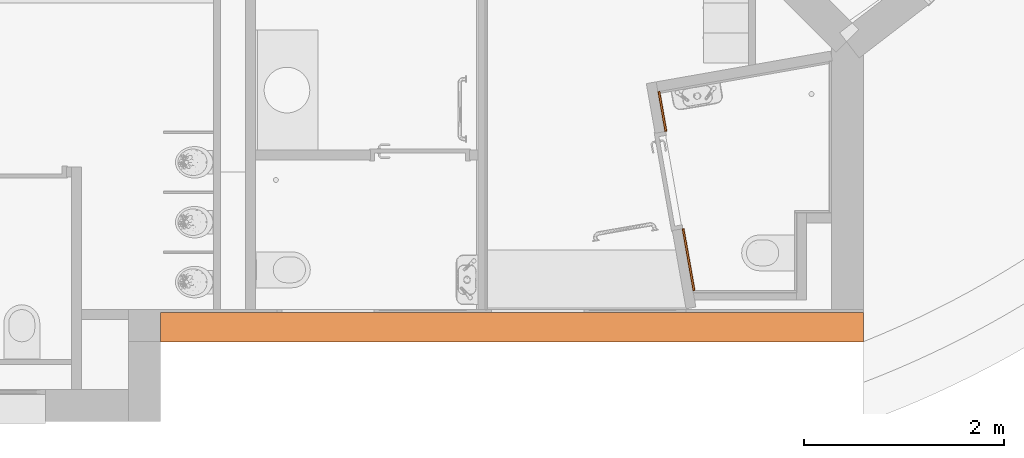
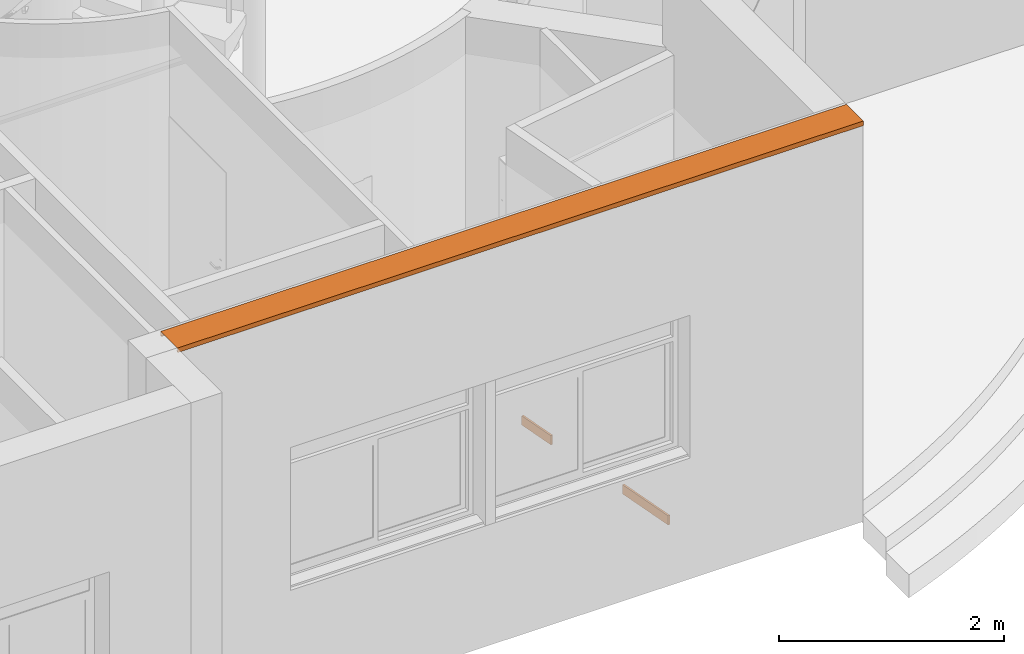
# One storey, part 129 of 137: 2 proxies.
"""IFC2X3 building model written with IfcOpenShell, lengths in centimetres."""

from ifc_helpers import new_model, entity, si_unit, converted_unit, derived_unit, direction, frame, frame_2d, origin, place, context, subcontext, project, spatial, polyline, rectangle, outline, extrude, element, save


model = new_model("IFC2X3")

# Units and contexts
model_context = context("Model", 3, precision=0.001, world=origin(), true_north=direction((6.12303176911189e-17, 1.0)))
body_context = subcontext(model_context, "Body", "Model", "MODEL_VIEW")
ifc_project = project(units=[si_unit("LENGTHUNIT", "METRE", prefix="CENTI"), si_unit("AREAUNIT", "SQUARE_METRE"), si_unit("VOLUMEUNIT", "CUBIC_METRE"), converted_unit("PLANEANGLEUNIT", "DEGREE", entity("IfcRatioMeasure", 0.0174532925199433), si_unit("PLANEANGLEUNIT", "RADIAN"), dimensions=[0, 0, 0, 0, 0, 0, 0]), si_unit("MASSUNIT", "GRAM", prefix="KILO"), si_unit("TIMEUNIT", "SECOND"), si_unit("FREQUENCYUNIT", "HERTZ"), si_unit("THERMODYNAMICTEMPERATUREUNIT", "DEGREE_CELSIUS"), derived_unit("THERMALTRANSMITTANCEUNIT", [(si_unit("MASSUNIT", "GRAM", prefix="KILO"), 1), (si_unit("THERMODYNAMICTEMPERATUREUNIT", "KELVIN"), -1), (si_unit("TIMEUNIT", "SECOND"), -3)]), derived_unit("VOLUMETRICFLOWRATEUNIT", [(si_unit("LENGTHUNIT", "METRE"), 3), (si_unit("TIMEUNIT", "SECOND"), -1)]), si_unit("ELECTRICCURRENTUNIT", "AMPERE"), si_unit("ELECTRICVOLTAGEUNIT", "VOLT"), si_unit("POWERUNIT", "WATT"), si_unit("FORCEUNIT", "NEWTON", prefix="KILO"), si_unit("ILLUMINANCEUNIT", "LUX"), si_unit("LUMINOUSFLUXUNIT", "LUMEN"), si_unit("LUMINOUSINTENSITYUNIT", "CANDELA"), derived_unit("USERDEFINED", [(si_unit("MASSUNIT", "GRAM", prefix="KILO"), -1), (si_unit("LENGTHUNIT", "METRE"), -2), (si_unit("TIMEUNIT", "SECOND"), 3), (si_unit("LUMINOUSFLUXUNIT", "LUMEN"), 1)]), derived_unit("LINEARVELOCITYUNIT", [(si_unit("LENGTHUNIT", "METRE"), 1), (si_unit("TIMEUNIT", "SECOND"), -1)]), si_unit("PRESSUREUNIT", "PASCAL"), derived_unit("USERDEFINED", [(si_unit("LENGTHUNIT", "METRE"), -2), (si_unit("MASSUNIT", "GRAM", prefix="KILO"), 1), (si_unit("TIMEUNIT", "SECOND"), -2)])], contexts=[model_context])

# Site, building, storey
site_placement = place(None, frame((8.62739174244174, -249.285249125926, 0.0)))
site = spatial("IfcSite", under=ifc_project, at=site_placement, Name="Default", CompositionType="ELEMENT")
building_placement = place(site_placement, origin())
building = spatial("IfcBuilding", under=site, at=building_placement, CompositionType="ELEMENT")
storey_placement = place(building_placement, origin())
storey = spatial("IfcBuildingStorey", under=building, at=storey_placement, Name="RDC", CompositionType="ELEMENT", Elevation=-8.82465566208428e-11)

# Proxies
proxy_1_placement = place(storey_placement, origin())
element("IfcBuildingElementProxy", 1, at=proxy_1_placement, inside=storey, Name="Profil en relief:Plinthe-carrelage-30x10", ObjectType="Profil en relief:Plinthe-carrelage-30x10", context=body_context, shape_type="SweptSolid", body=[
    extrude(rectangle(XDim=40.5000000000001, YDim=2.00000000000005, at=frame_2d((-3.73034936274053e-14, -2.13662421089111e-13), x_axis=(1.0, 0.0))), frame((3174.55148961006, 102.605686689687, 0.0), z_axis=(0.0, 0.0, 1.0), x_axis=(-0.173648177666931, 0.984807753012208, 0.0)), (0.0, 0.0, 1.0), 10.0),
    extrude(rectangle(XDim=62.9701641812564, YDim=2.00000000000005, at=frame_2d((-3.01980662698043e-14, -2.1449508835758e-13), x_axis=(1.0, 0.0))), frame((3200.72636192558, -45.8393908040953, 0.0), z_axis=(0.0, 0.0, 1.0), x_axis=(-0.173648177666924, 0.984807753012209, 0.0)), (0.0, 0.0, 1.0), 9.99999999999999),
])
proxy_2_placement = place(storey_placement, origin())
element("IfcBuildingElementProxy", 2, at=proxy_2_placement, inside=storey, Name="Profil en relief:profil-couvertine-ex", ObjectType="Profil en relief:profil-couvertine-ex", context=body_context, shape_type="SweptSolid", body=[
    extrude(outline(polyline([(-3.07708620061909, -14.9798097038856), (1.92947315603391, -14.9798097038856), (0.515259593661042, -13.5655961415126), (0.444548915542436, -13.6363068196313), (1.68805179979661, -14.8798097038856), (-2.97052684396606, -14.8798097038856), (-2.97052684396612, 14.9201902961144), (1.82947315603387, 14.9201902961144), (1.82947315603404, 13.5201902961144), (1.92947315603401, 13.5201902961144), (1.92947315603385, 15.0201902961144), (-3.07708620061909, 15.0201902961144), (-3.07708620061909, -14.9798097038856)])), frame((2671.90482780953, -113.584024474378, 406.922913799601), z_axis=(1.0, 0.0, 0.0), x_axis=(0.0, 0.0, -1.0)), (0.0, 0.0, 1.0), 704.000000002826),
])

save(model, "model.ifc")
